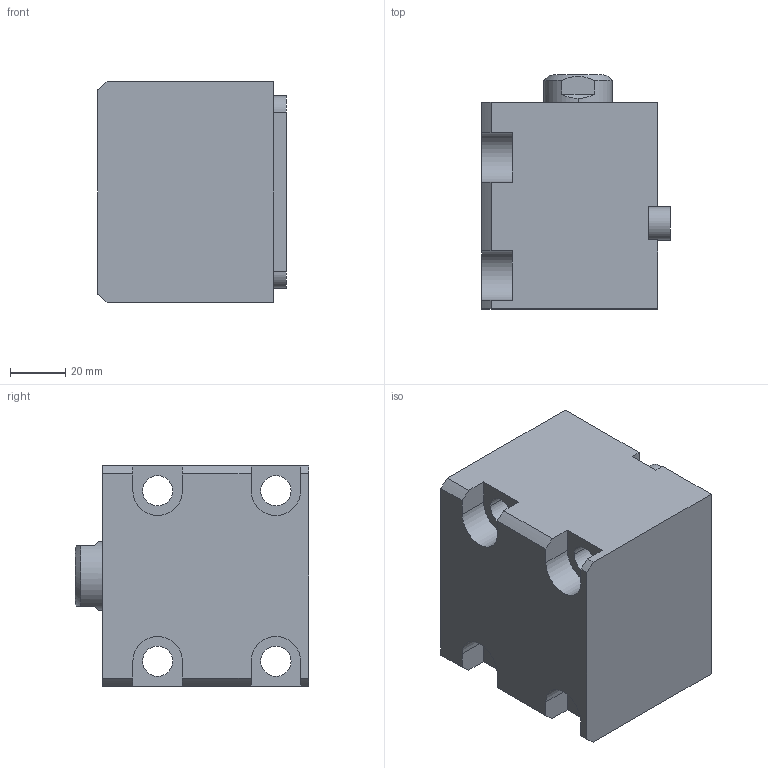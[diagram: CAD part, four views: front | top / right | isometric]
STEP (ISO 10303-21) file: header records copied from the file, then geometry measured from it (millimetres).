
FILE_DESCRIPTION (( 'STEP AP214' ), '1' );
FILE_NAME ('chtb-lam40x20n_asm.STEP', '2018-05-30T01:12:24', ( 'Windows' ), ( 'Microsoft' ), 'SwSTEP 2.0', 'SolidWorks 2015', '' );
FILE_SCHEMA (( 'AUTOMOTIVE_DESIGN' ));
Length unit declared in the file: millimetre
Products named in the file (5): CHTB-SD40QG; CHTB-SD40X20NHSG; CHTB-LAM40X20NBT; CHTB-LA40PJ; chtb-lam40x20n_asm
Assembly tree (4 placements, depth 2):
  chtb-lam40x20n_asm
    CHTB-LA40PJ
    CHTB-LAM40X20NBT
    CHTB-SD40X20NHSG
    CHTB-SD40QG
Bounding box: 68.5 x 85 x 80 mm (x, y, z)
Volume: 333541.6 mm3; surface area: 73757.1 mm2
Topology: 4 solids, 4 shells, 154 faces, 418 edges, 278 vertices
Faces by surface type: cylinder 73, plane 46, bspline 14, torus 12, cone 9
Entity records: 10092 total; most frequent: CARTESIAN_POINT 6074, ORIENTED_EDGE 824, DIRECTION 755, EDGE_CURVE 412, AXIS2_PLACEMENT_3D 300, VERTEX_POINT 278, EDGE_LOOP 180, LINE 155
